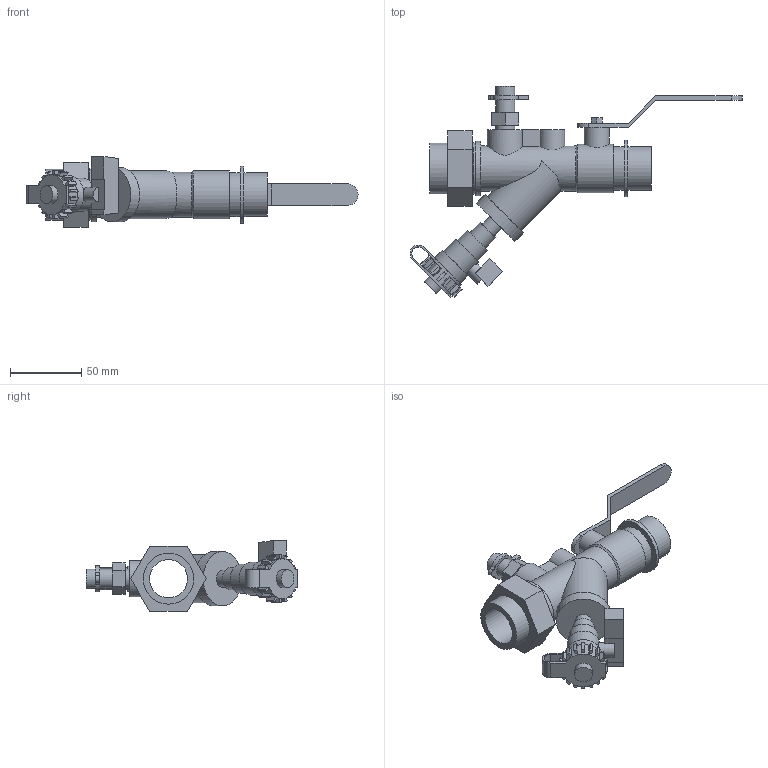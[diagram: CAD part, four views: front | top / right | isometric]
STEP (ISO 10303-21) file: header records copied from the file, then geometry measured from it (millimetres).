
FILE_DESCRIPTION(/* description */ ('VIC Y-STRAINER/BALL SERIES 78Y (FPT)','CAx-IF Rec.Pracs.---Representation and Presentation of Product Manufacturing Information (PMI)---4.0---2014-10-13'),/* implementation_level */ '2;1');
FILE_NAME(/* name */ 'C:\Users\kkamble\Desktop\extraction\OldVersions\Victaulic_IPS_Valve Ball Y Strainer Combination_Series 78Y (FPT)\Victaulic_IPS_Valve Ball Y Strainer Combination_Series 78Y (FPT)_0.75x0.75 (20x20).stp',/* time_stamp */ '2020-10-19T10:38:41+05:00',/* author */ ('kkamble'),/* organization */ ('Victaulic'),/* preprocessor_version */ 'ST-DEVELOPER v17.2',/* originating_system */ 'Autodesk Inventor 2019',/* authorisation */ '');
FILE_SCHEMA (('AP242_MANAGED_MODEL_BASED_3D_ENGINEERING_MIM_LF { 1 0 10303 442 1 1 4 }'));
Length unit declared in the file: inch
Products named in the file (1): 78Y-0.75x0.75
Bounding box: 232.24 x 148.18 x 49.53 mm (x, y, z)
Volume: 126869 mm3; surface area: 62281.4 mm2
Topology: 2 solids, 3 shells, 217 faces, 533 edges, 361 vertices
Faces by surface type: plane 157, cylinder 58, cone 2
Full cylindrical faces by diameter (mm): 10.16 x1, 10.998 x1, 11.887 x1, 12.565 x1, 13.462 x5, 15.24 x1, 17.272 x1, 20.32 x1, 22.86 x1, 25.4 x1, 26.67 x2, 27.94 x1, 30.48 x2, 31.496 x1, 33.528 x1, 33.782 x1, 35.56 x2, 36.068 x1, 38.1 x2, 39.624 x1
Entity records: 7051 total; most frequent: CARTESIAN_POINT 1508, DIRECTION 1152, ORIENTED_EDGE 1066, EDGE_CURVE 533, AXIS2_PLACEMENT_3D 408, VERTEX_POINT 361, LINE 336, VECTOR 336
